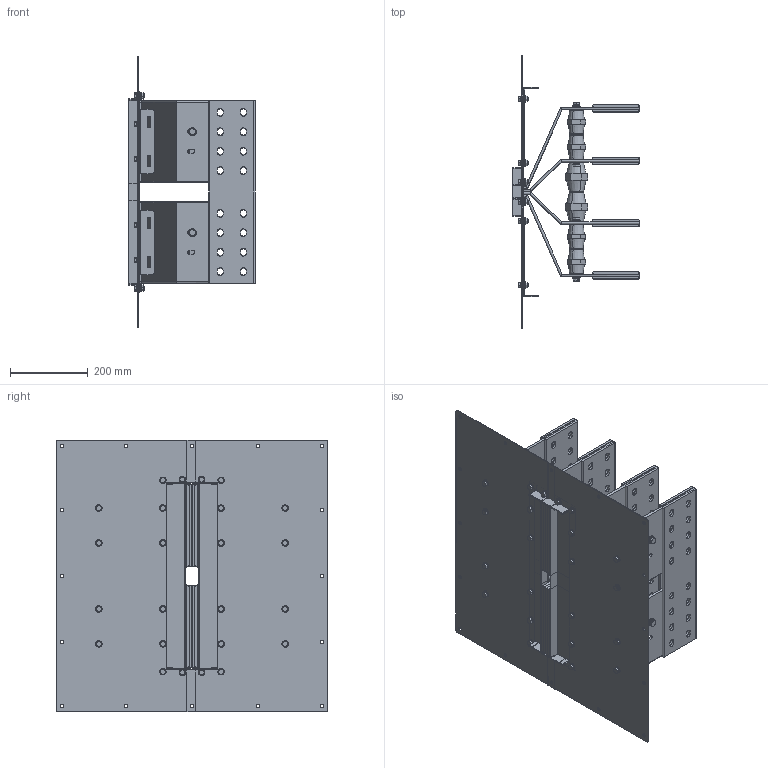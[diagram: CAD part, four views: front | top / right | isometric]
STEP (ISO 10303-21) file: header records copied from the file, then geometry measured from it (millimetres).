
FILE_DESCRIPTION(('CATIA V5 STEP','CAx-IF Rec.Pracs.--- Model Styling and Organization---1.5--- 2016-08-15','CAx-IF Rec.Pracs.---Supplemental Geometry---1.0---2011-11-01','CAx-IF Rec.Pracs.--- Composite Materials ---1.1---2010-07-15'),'2;1');
FILE_NAME('K:\COSCN 2011\32372311_RiduzioneSezioniBarre\03_Studio\__Modelli semplificati\XCP_UB semplificati per studi\XCP-HP_UB_4C_Pe_CRT_Assieme\Cu\XCP-HP_UB_4C_Pe_D_Assieme - 5000A Cu_CRT\XCP-HP_UB_4C_Pe_D_Assieme - 5000A Cu_CRT.stp','2025-05-12T12:10:41+00:00',('Utente Bticino'),('Bticino S.p.A.'),'CATIA Version 5-6 Release 2020 SP5','CATIA V5 STEP AP214 v2','none');
FILE_SCHEMA(('AUTOMOTIVE_DESIGN { 1 0 10303 214 1 1 1 1 }'));
Length unit declared in the file: millimetre
Products named in the file (30): XCP-HP_UB_4C_Pe_D_Assieme - 5000A Cu_CRT; XCP-HP_UB_4C_Pe_D_PaccoBarre_5000A Cu_CRT; XCP-HP_UB_4C_Pe_D_Lamiere_5000A Cu_CRT; XCP-HP_UB_4C_Pe_D_PaccoBarre_5000A Cu_CRT_1; XCP-HP_UB_4C_Pe_D - 5000A Cu_Bandelle parallelo_CRT; 130006; 130184; 00750033 - RONDELLA PIANA 4.8 D.12 UNI 6592 ZB; Ass_M10x25.1; 00740025 M10x25 UNI5739; Rondella spac M10 UNI 1751; 00750005; 130006_1; 00750033 - RONDELLA PIANA 4.8 D.12 UNI 6592 ZB_1; 130184_1; 130006_2; 00750033 - RONDELLA PIANA 4.8 D.12 UNI 6592 ZB_2; 130006_3; 130006_4; 130184_2; 00750033 - RONDELLA PIANA 4.8 D.12 UNI 6592 ZB_3; 130006_5; 00750033 - RONDELLA PIANA 4.8 D.12 UNI 6592 ZB_4; 130184_3; 130006_6; 00750033 - RONDELLA PIANA 4.8 D.12 UNI 6592 ZB_5; 130006_7; Ass Vite+dado M8; Steel hex flanged SCREW M12x16; Steel hex flanged NUT M8
Assembly tree (63 placements, depth 3):
  XCP-HP_UB_4C_Pe_D_Assieme - 5000A Cu_CRT
    XCP-HP_UB_4C_Pe_D_PaccoBarre_5000A Cu_CRT
    XCP-HP_UB_4C_Pe_D_Lamiere_5000A Cu_CRT
    XCP-HP_UB_4C_Pe_D_PaccoBarre_5000A Cu_CRT_1
    XCP-HP_UB_4C_Pe_D - 5000A Cu_Bandelle parallelo_CRT
    130006
    130184
    00750033 - RONDELLA PIANA 4.8 D.12 UNI 6592 ZB
    Ass_M10x25.1  x12
      00740025 M10x25 UNI5739
      Rondella spac M10 UNI 1751
      00750005
    130006_1
    00750033 - RONDELLA PIANA 4.8 D.12 UNI 6592 ZB_1
    130184_1
    130006_2
    00750033 - RONDELLA PIANA 4.8 D.12 UNI 6592 ZB_2
    130006_3
    130006_4
    130184_2
    00750033 - RONDELLA PIANA 4.8 D.12 UNI 6592 ZB_3
    130006_5
    00750033 - RONDELLA PIANA 4.8 D.12 UNI 6592 ZB_4
    130184_3
    130006_6
    00750033 - RONDELLA PIANA 4.8 D.12 UNI 6592 ZB_5
    130006_7
    Ass Vite+dado M8  x24
      Steel hex flanged SCREW M12x16
      Steel hex flanged NUT M8
Bounding box: 325 x 700 x 700 mm (x, y, z)
Volume: 9398033.8 mm3; surface area: 4135744 mm2
Topology: 132 solids, 132 shells, 3416 faces, 8492 edges, 5400 vertices
Faces by surface type: plane 1560, cylinder 1120, cone 336, bspline 288, torus 112
Entity records: 57675 total; most frequent: CARTESIAN_POINT 11350, ORIENTED_EDGE 10296, DIRECTION 7310, EDGE_CURVE 5148, VERTEX_POINT 3332, VECTOR 3160, LINE 3160, AXIS2_PLACEMENT_3D 3014
